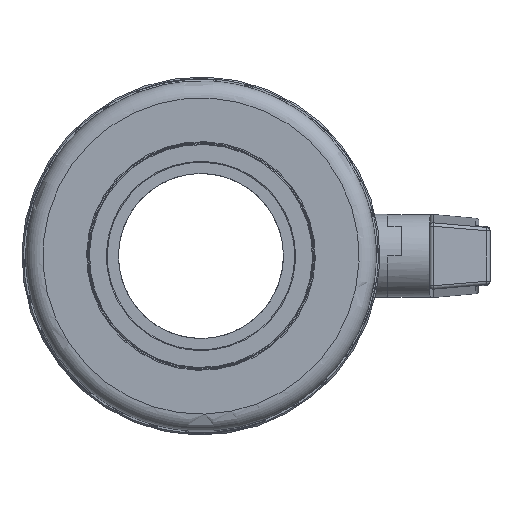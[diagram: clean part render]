
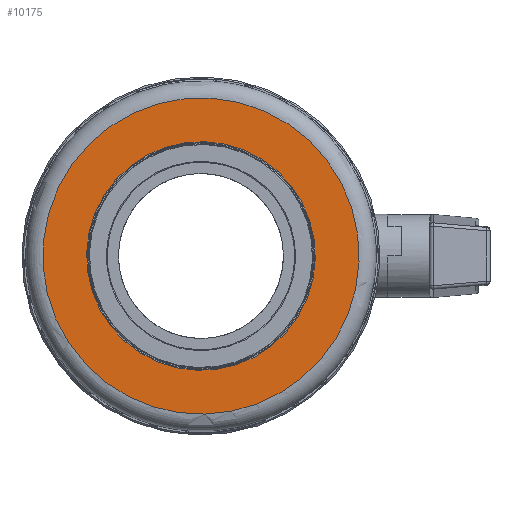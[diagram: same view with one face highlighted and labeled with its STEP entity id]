
A CAD part, front view. The second image highlights one B-rep face of the part: STEP entity #10175.
In plain terms, the highlighted planar face has unit normal (0, -1, 0).
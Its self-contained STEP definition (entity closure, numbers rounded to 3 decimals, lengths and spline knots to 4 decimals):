
#69=FACE_BOUND('',#3193,.T.);
#237=PLANE('',#11030);
#2547=FACE_OUTER_BOUND('',#3192,.T.);
#3192=EDGE_LOOP('',(#8089));
#3193=EDGE_LOOP('',(#8090));
#3703=CIRCLE('',#10926,9.275);
#3767=CIRCLE('',#11031,6.705);
#4480=VERTEX_POINT('',#34605);
#4540=VERTEX_POINT('',#38536);
#5659=EDGE_CURVE('',#4480,#4480,#3703,.T.);
#5781=EDGE_CURVE('',#4540,#4540,#3767,.T.);
#8089=ORIENTED_EDGE('',*,*,#5659,.F.);
#8090=ORIENTED_EDGE('',*,*,#5781,.T.);
#10175=ADVANCED_FACE('',(#2547,#69),#237,.T.);
#10926=AXIS2_PLACEMENT_3D('',#34606,#12753,#12754);
#11030=AXIS2_PLACEMENT_3D('',#38535,#12995,#12996);
#11031=AXIS2_PLACEMENT_3D('',#38537,#12997,#12998);
#12753=DIRECTION('center_axis',(0.,1.,0.));
#12754=DIRECTION('ref_axis',(-0.929,0.,0.371));
#12995=DIRECTION('center_axis',(0.,-1.,0.));
#12996=DIRECTION('ref_axis',(0.371,0.,0.929));
#12997=DIRECTION('center_axis',(0.,1.,0.));
#12998=DIRECTION('ref_axis',(-0.929,0.,0.371));
#34605=CARTESIAN_POINT('',(8.6143,-10.35,-3.4378));
#34606=CARTESIAN_POINT('Origin',(0.,-10.35,0.));
#38535=CARTESIAN_POINT('Origin',(8.6143,-10.35,-3.4378));
#38536=CARTESIAN_POINT('',(6.2274,-10.35,-2.4853));
#38537=CARTESIAN_POINT('Origin',(0.,-10.35,0.));
